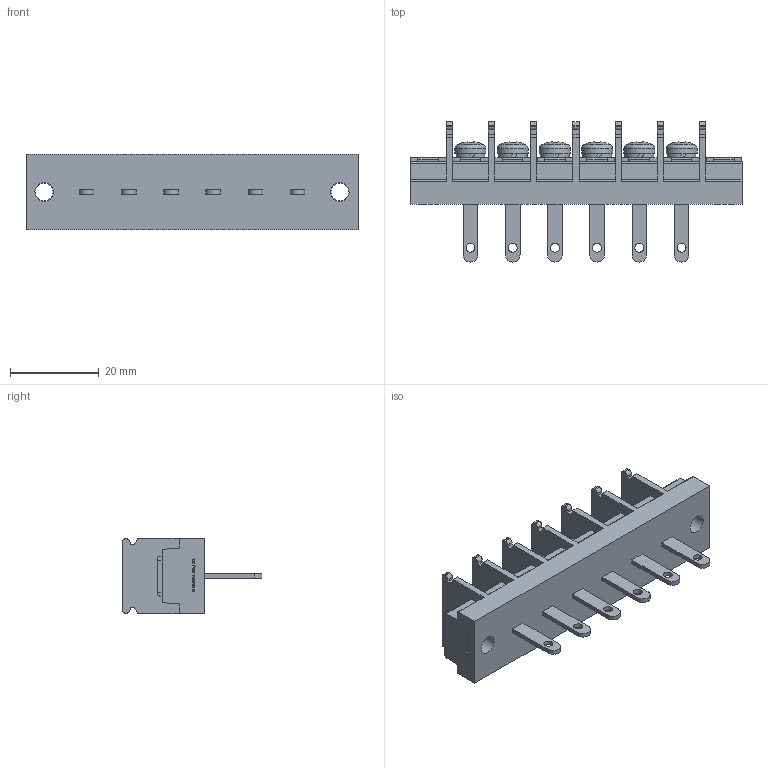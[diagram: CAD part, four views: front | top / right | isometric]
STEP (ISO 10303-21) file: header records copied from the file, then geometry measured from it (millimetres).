
FILE_DESCRIPTION(/* description */ ('Alibre Inc.'),/* implementation_level */ '2;1');
FILE_NAME(/* name */ 'export-A3ACB554-15E1-49D5-A097-3777801D02D6',/* time_stamp */ '2020-11-07T15:37:25+09:00',/* author */ (''),/* organization */ (''),/* preprocessor_version */ 'ST-DEVELOPER v17',/* originating_system */ 'Alibre',/* authorisation */ '');
FILE_SCHEMA (('CONFIG_CONTROL_DESIGN'));
Length unit declared in the file: millimetre
Bounding box: 74.7 x 31.5 x 17 mm (x, y, z)
Volume: 13220.2 mm3; surface area: 9001.4 mm2
Topology: 1 solids, 7 shells, 956 faces, 2618 edges, 1738 vertices
Faces by surface type: plane 688, cylinder 116, bspline 104, cone 30, torus 12, sphere 6
Full cylindrical faces by diameter (mm): 2 x6, 4 x14, 4.2 x2, 6.5 x6, 7 x6
Entity records: 28967 total; most frequent: CARTESIAN_POINT 6256, ORIENTED_EDGE 5080, DIRECTION 3656, EDGE_CURVE 2540, VECTOR 1806, LINE 1806, VERTEX_POINT 1706, AXIS2_PLACEMENT_3D 1256
